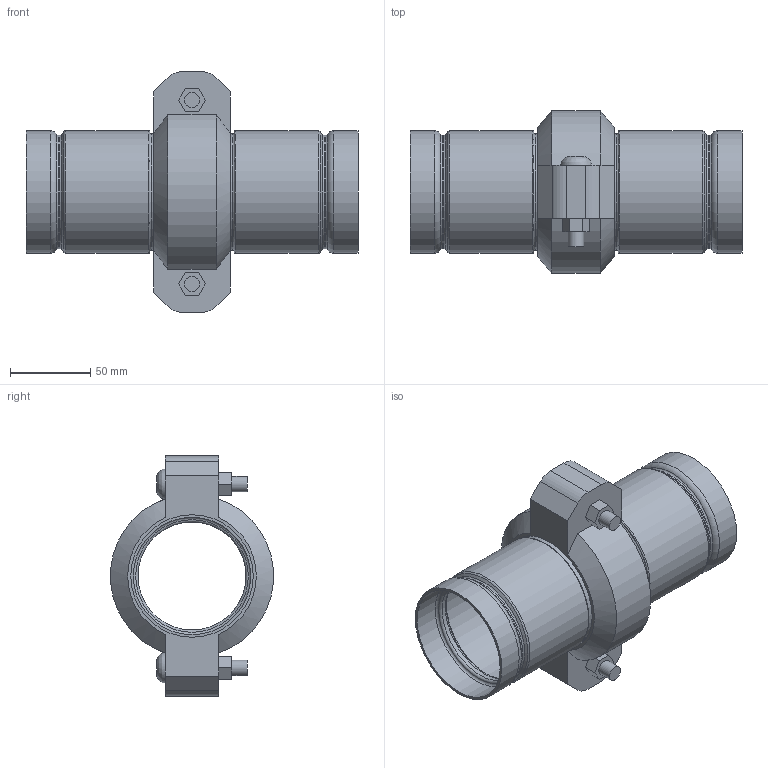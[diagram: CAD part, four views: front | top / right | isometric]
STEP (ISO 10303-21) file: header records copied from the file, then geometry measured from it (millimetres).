
FILE_DESCRIPTION(/* description */ ('VIC STRENGTHIN 100 EXPANSION JOINT 1 COUPLING EXPANDED STYLE E155 (ST1)','CAx-IF Rec.Pracs.---Representation and Presentation of Product Manufacturing Information (PMI)---4.0---2014-10-13'),/* implementation_level */ '2;1');
FILE_NAME(/* name */ 'C:\Users\Vjadhav\AppData\Roaming\Autodesk\ApplicationPlugins\Victaulic.Temp\A475\Victaulic_SS-StrengThin 100_Expansion Joint_Expanded_1 Coupling_Style E155 (ST1)_02.5 (76.1) (65).stp',/* time_stamp */ '2021-07-23T19:21:49+06:00',/* author */ ('kkamble'),/* organization */ ('Victaulic'),/* preprocessor_version */ 'ST-DEVELOPER v17.2',/* originating_system */ 'Autodesk Inventor 2019',/* authorisation */ '');
FILE_SCHEMA (('AP242_MANAGED_MODEL_BASED_3D_ENGINEERING_MIM_LF { 1 0 10303 442 1 1 4 }'));
Length unit declared in the file: inch
Products named in the file (3): E155-02.5 (76.1); E494G-02.5 (76.1); 075-02.5 (76.1)
Assembly tree (3 placements, depth 2):
  E155-02.5 (76.1)
    E494G-02.5 (76.1)  x2
    075-02.5 (76.1)
Bounding box: 206.5 x 101.25 x 149.86 mm (x, y, z)
Volume: 300743.4 mm3; surface area: 145970.7 mm2
Topology: 3 solids, 5 shells, 125 faces, 359 edges, 258 vertices
Faces by surface type: plane 48, cylinder 35, torus 32, cone 8, bspline 2
Full cylindrical faces by diameter (mm): 9.525 x4, 11.43 x2, 67.158 x2, 69.063 x2, 69.85 x1, 70.358 x2, 72.263 x2, 73 x6, 76.2 x8
Entity records: 3300 total; most frequent: CARTESIAN_POINT 614, DIRECTION 571, ORIENTED_EDGE 496, EDGE_CURVE 248, AXIS2_PLACEMENT_3D 238, VERTEX_POINT 175, CIRCLE 143, EDGE_LOOP 109
